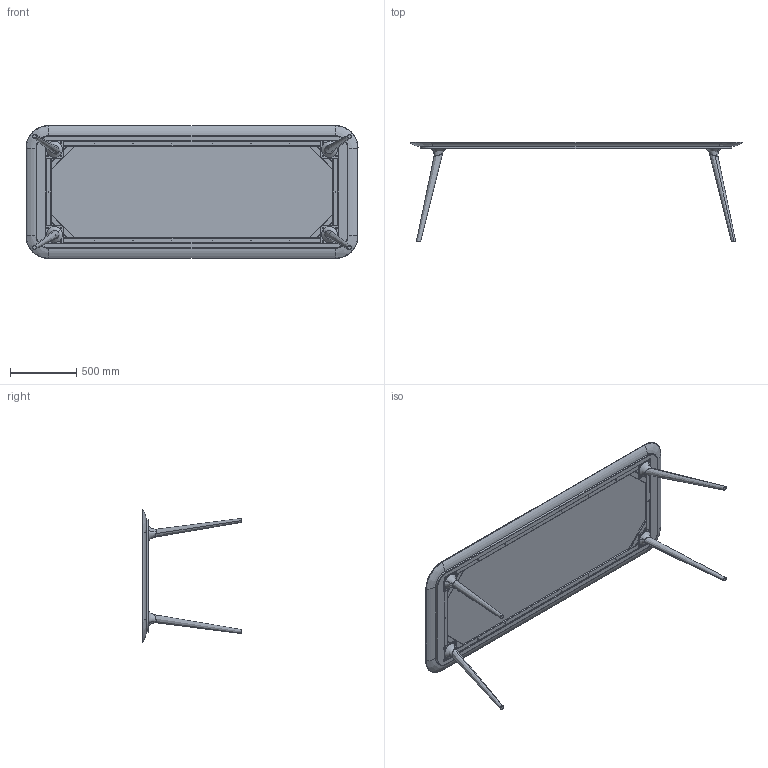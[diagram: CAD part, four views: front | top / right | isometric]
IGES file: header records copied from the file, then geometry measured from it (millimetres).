
Start section: SolidWorks IGES file using analytic representation for surfaces
Global section: file name: P:\Corporate Identity\4_Product_Content\2d3ddag_2014\Zio Dining Table\3D\Zio_Dining_Table_250x100.IGS; native system: SolidWorks 2014; preprocessor: SolidWorks 2014; author: PaulPD; date: 140828.111518; units: millimetre
Bounding box: 2500.46 x 749.96 x 1000.44 mm (x, y, z)
Surface area: 8201817.8 mm2 (no closed solid volume)
Topology: 0 solids, 0 shells, 611 faces, 8674 edges, 8606 vertices
Faces by surface type: revolution 445, bspline 166
